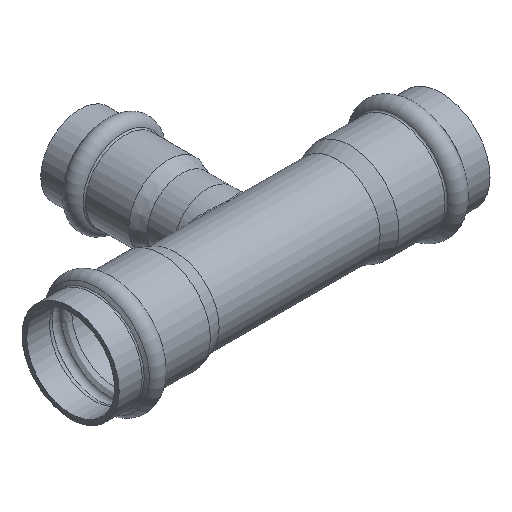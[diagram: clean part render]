
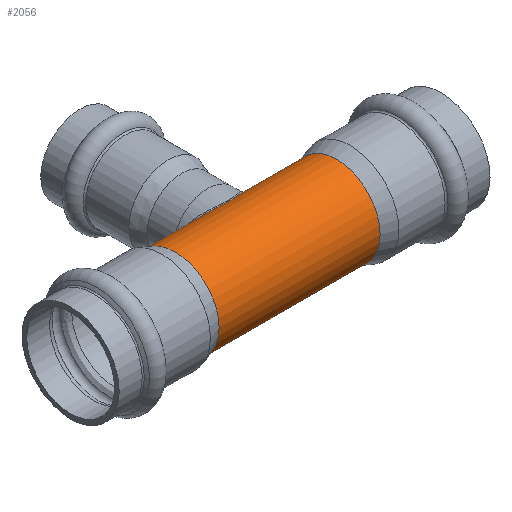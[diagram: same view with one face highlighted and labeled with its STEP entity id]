
A CAD part, isometric view. The second image highlights one B-rep face of the part: STEP entity #2056.
In plain terms, the highlighted cylindrical face has radius 14 mm (diameter 28 mm), a full revolution.
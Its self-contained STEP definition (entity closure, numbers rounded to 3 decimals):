
#1847=CARTESIAN_POINT('',(-59.5,8.4,-11.2));
#1848=VERTEX_POINT('',#1847);
#1931=CARTESIAN_POINT('',(-59.5,8.4,-11.2));
#1932=CARTESIAN_POINT('',(-59.855,8.4,-11.2));
#1933=CARTESIAN_POINT('',(-60.33,8.427,-11.18));
#1934=CARTESIAN_POINT('',(-61.265,8.546,-11.09));
#1935=CARTESIAN_POINT('',(-62.122,8.731,-10.946));
#1936=CARTESIAN_POINT('',(-62.998,9.006,-10.72));
#1937=CARTESIAN_POINT('',(-63.736,9.277,-10.487));
#1938=CARTESIAN_POINT('',(-64.293,9.513,-10.274));
#1939=CARTESIAN_POINT('',(-65.178,9.922,-9.883));
#1940=CARTESIAN_POINT('',(-66.018,10.361,-9.43));
#1941=CARTESIAN_POINT('',(-67.055,10.961,-8.722));
#1942=CARTESIAN_POINT('',(-67.773,11.407,-8.13));
#1943=CARTESIAN_POINT('',(-68.367,11.791,-7.555));
#1944=CARTESIAN_POINT('',(-69.027,12.229,-6.842));
#1945=CARTESIAN_POINT('',(-69.661,12.666,-6.003));
#1946=CARTESIAN_POINT('',(-70.197,13.047,-5.093));
#1947=CARTESIAN_POINT('',(-70.453,13.231,-4.582));
#1948=CARTESIAN_POINT('',(-70.808,13.488,-3.796));
#1949=CARTESIAN_POINT('',(-71.215,13.788,-2.627));
#1950=CARTESIAN_POINT('',(-71.426,13.945,-1.394));
#1951=CARTESIAN_POINT('',(-71.502,14.001,-0.364));
#1952=CARTESIAN_POINT('',(-71.508,14.006,0.227));
#1953=CARTESIAN_POINT('',(-71.437,13.953,1.331));
#1954=CARTESIAN_POINT('',(-71.262,13.823,2.348));
#1955=CARTESIAN_POINT('',(-70.924,13.573,3.464));
#1956=CARTESIAN_POINT('',(-70.608,13.343,4.266));
#1957=CARTESIAN_POINT('',(-70.23,13.071,5.037));
#1958=CARTESIAN_POINT('',(-69.725,12.712,5.894));
#1959=CARTESIAN_POINT('',(-69.145,12.31,6.689));
#1960=CARTESIAN_POINT('',(-68.416,11.821,7.519));
#1961=CARTESIAN_POINT('',(-67.512,11.238,8.377));
#1962=CARTESIAN_POINT('',(-66.505,10.634,9.121));
#1963=CARTESIAN_POINT('',(-65.54,10.111,9.689));
#1964=CARTESIAN_POINT('',(-64.532,9.609,10.192));
#1965=CARTESIAN_POINT('',(-63.442,9.147,10.604));
#1966=CARTESIAN_POINT('',(-62.283,8.781,10.906));
#1967=CARTESIAN_POINT('',(-61.075,8.495,11.13));
#1968=CARTESIAN_POINT('',(-59.495,8.336,11.247));
#1969=CARTESIAN_POINT('',(-57.916,8.496,11.129));
#1970=CARTESIAN_POINT('',(-56.708,8.783,10.904));
#1971=CARTESIAN_POINT('',(-55.839,9.058,10.677));
#1972=CARTESIAN_POINT('',(-55.004,9.382,10.395));
#1973=CARTESIAN_POINT('',(-54.071,9.799,10.006));
#1974=CARTESIAN_POINT('',(-53.317,10.186,9.611));
#1975=CARTESIAN_POINT('',(-52.37,10.709,9.029));
#1976=CARTESIAN_POINT('',(-51.368,11.31,8.288));
#1977=CARTESIAN_POINT('',(-50.182,12.084,7.119));
#1978=CARTESIAN_POINT('',(-49.286,12.703,5.934));
#1979=CARTESIAN_POINT('',(-48.439,13.307,4.455));
#1980=CARTESIAN_POINT('',(-47.924,13.685,3.101));
#1981=CARTESIAN_POINT('',(-47.637,13.898,1.761));
#1982=CARTESIAN_POINT('',(-47.488,14.009,0.594));
#1983=CARTESIAN_POINT('',(-47.488,14.009,-0.892));
#1984=CARTESIAN_POINT('',(-47.786,13.787,-2.632));
#1985=CARTESIAN_POINT('',(-48.266,13.434,-4.009));
#1986=CARTESIAN_POINT('',(-48.77,13.07,-5.039));
#1987=CARTESIAN_POINT('',(-49.343,12.664,-6.009));
#1988=CARTESIAN_POINT('',(-50.104,12.138,-7.016));
#1989=CARTESIAN_POINT('',(-51.079,11.498,-8.009));
#1990=CARTESIAN_POINT('',(-52.353,10.709,-9.058));
#1991=CARTESIAN_POINT('',(-53.804,9.906,-9.916));
#1992=CARTESIAN_POINT('',(-55.41,9.206,-10.554));
#1993=CARTESIAN_POINT('',(-56.707,8.768,-10.918));
#1994=CARTESIAN_POINT('',(-58.077,8.471,-11.147));
#1995=CARTESIAN_POINT('',(-59.026,8.4,-11.2));
#1996=CARTESIAN_POINT('',(-59.5,8.4,-11.2));
#1997=CARTESIAN_POINT('',(-59.5,8.4,-11.2));
#1998=CARTESIAN_POINT('',(-59.5,8.4,-11.2));
#1999=CARTESIAN_POINT('',(-59.5,8.4,-11.2));
#2000=B_SPLINE_CURVE_WITH_KNOTS('',3,(#1931,#1932,#1933,#1934,#1935,#1936,#1937,#1938,#1939,#1940,#1941,#1942,#1943,#1944,#1945,#1946,#1947,#1948,#1949,#1950,#1951,#1952,#1953,#1954,#1955,#1956,#1957,#1958,#1959,#1960,#1961,#1962,#1963,#1964,#1965,#1966,#1967,#1968,#1969,#1970,#1971,#1972,#1973,#1974,#1975,#1976,#1977,#1978,#1979,#1980,#1981,#1982,#1983,#1984,#1985,#1986,#1987,#1988,#1989,#1990,#1991,#1992,#1993,#1994,#1995,#1996,#1997,#1998,#1999),.UNSPECIFIED.,.T.,.U.,(4,1,1,1,1,1,1,1,1,1,1,1,1,1,1,1,1,1,1,1,1,1,1,1,1,1,1,1,1,1,1,1,1,1,1,1,1,1,1,1,1,1,1,1,1,1,1,1,1,1,1,1,1,1,1,1,1,1,1,1,1,1,1,3,4),(-7.078,-6.983,-6.952,-6.825,-6.746,-6.699,-6.604,-6.573,-6.415,-6.32,-6.193,-6.13,-6.067,-5.899,-5.814,-5.751,-5.73,-5.561,-5.393,-5.372,-5.267,-5.224,-5.056,-4.972,-4.887,-4.803,-4.719,-4.592,-4.508,-4.382,-4.213,-4.129,-4.045,-3.876,-3.792,-3.708,-3.539,-3.371,-3.286,-3.202,-3.118,-3.034,-2.907,-2.865,-2.696,-2.528,-2.359,-2.247,-2.022,-1.938,-1.854,-1.685,-1.517,-1.348,-1.264,-1.18,-1.011,-0.885,-0.758,-0.506,-0.379,-0.253,-0.126,0.0,0.),.UNSPECIFIED.);
#2001=EDGE_CURVE('',#1848,#1848,#2000,.T.);
#2026=CARTESIAN_POINT('',(-59.5,0.,0.0));
#2027=DIRECTION('',(1.0,0.,0.0));
#2028=DIRECTION('',(0.0,1.0,0.0));
#2029=AXIS2_PLACEMENT_3D('',#2026,#2027,#2028);
#2030=CYLINDRICAL_SURFACE('',#2029,14.);
#2031=CARTESIAN_POINT('',(-85.34,14.,0.0));
#2032=VERTEX_POINT('',#2031);
#2033=CARTESIAN_POINT('',(-85.34,0.,0.0));
#2034=DIRECTION('',(1.0,0.0,0.0));
#2035=DIRECTION('',(0.0,1.0,0.0));
#2036=AXIS2_PLACEMENT_3D('',#2033,#2034,#2035);
#2037=CIRCLE('',#2036,14.);
#2038=EDGE_CURVE('',#2032,#2032,#2037,.T.);
#2039=ORIENTED_EDGE('',*,*,#2038,.T.);
#2040=EDGE_LOOP('',(#2039));
#2041=FACE_OUTER_BOUND('',#2040,.T.);
#2042=CARTESIAN_POINT('',(-33.66,14.,0.0));
#2043=VERTEX_POINT('',#2042);
#2044=CARTESIAN_POINT('',(-33.66,0.,0.0));
#2045=DIRECTION('',(1.0,0.0,0.0));
#2046=DIRECTION('',(0.0,1.0,0.0));
#2047=AXIS2_PLACEMENT_3D('',#2044,#2045,#2046);
#2048=CIRCLE('',#2047,14.);
#2049=EDGE_CURVE('',#2043,#2043,#2048,.T.);
#2050=ORIENTED_EDGE('',*,*,#2049,.F.);
#2051=EDGE_LOOP('',(#2050));
#2052=FACE_BOUND('',#2051,.T.);
#2053=ORIENTED_EDGE('',*,*,#2001,.F.);
#2054=EDGE_LOOP('',(#2053));
#2055=FACE_BOUND('',#2054,.T.);
#2056=ADVANCED_FACE('',(#2041,#2052,#2055),#2030,.T.);
